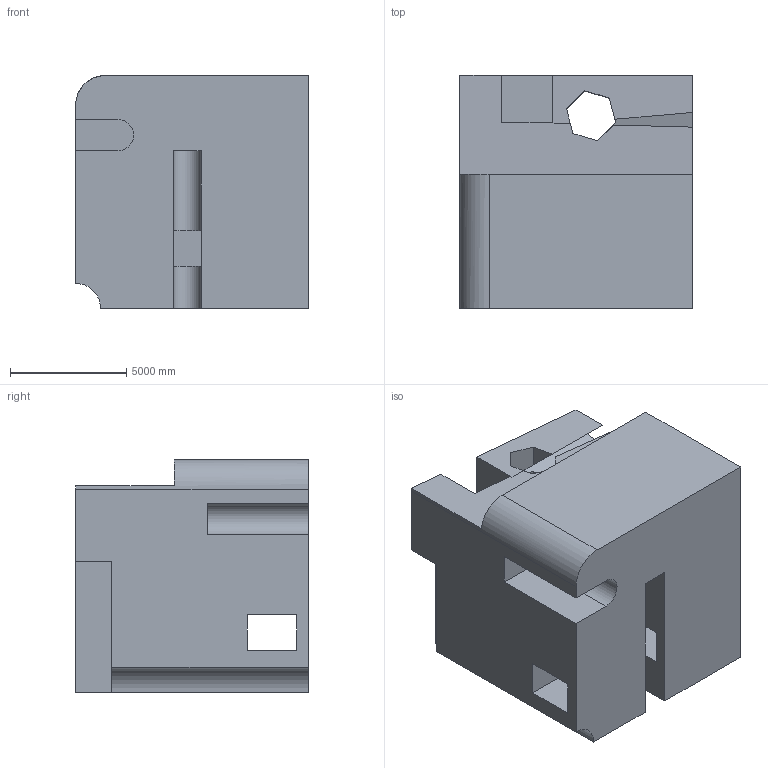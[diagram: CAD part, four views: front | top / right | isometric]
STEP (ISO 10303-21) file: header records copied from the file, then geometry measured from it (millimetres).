
FILE_DESCRIPTION (( 'STEP AP203' ), '1' );
FILE_NAME ('1900.STEP', '2022-08-25T16:41:47', ( 'user' ), ( '' ), 'SwSTEP 2.0', 'SolidWorks 2021', '' );
FILE_SCHEMA (( 'CONFIG_CONTROL_DESIGN' ));
Length unit declared in the file: centimetre
Products named in the file (1): 1900
Bounding box: 10000 x 10000 x 10000 mm (x, y, z)
Volume: 798011914354 mm3; surface area: 760070381.5 mm2
Topology: 1 solids, 1 shells, 47 faces, 150 edges, 100 vertices
Faces by surface type: plane 42, cylinder 5
Entity records: 1728 total; most frequent: ORIENTED_EDGE 300, CARTESIAN_POINT 298, DIRECTION 257, EDGE_CURVE 150, VECTOR 139, LINE 139, VERTEX_POINT 100, AXIS2_PLACEMENT_3D 59
